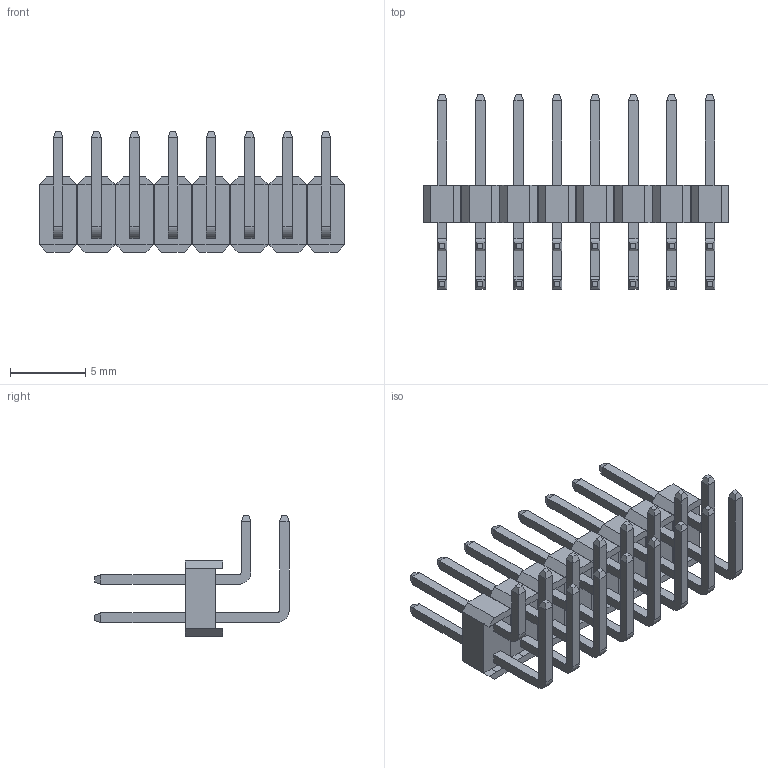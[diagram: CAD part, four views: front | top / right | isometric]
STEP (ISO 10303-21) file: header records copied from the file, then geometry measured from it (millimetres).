
FILE_DESCRIPTION(/* description */ (''),/* implementation_level */ '2;1');
FILE_NAME(/* name */ 'E:\工作文件\排针排母\PZ排针\2.54\双排\W-弯针\塑高2.5\PZ254-2-N-W-2.5-XX (2.54 双排 弯针 排针-HCTL)\PZ254-2-8-W-2.5-XX (2.54 双排 弯针 排针-HCTL).stp',/* time_stamp */ '2023-12-20T10:18:36+08:00',/* author */ ('admin'),/* organization */ (''),/* preprocessor_version */ 'ST-DEVELOPER v18.1',/* originating_system */ 'Autodesk Inventor 2021',/* authorisation */ '');
FILE_SCHEMA (('AUTOMOTIVE_DESIGN { 1 0 10303 214 3 1 1 }'));
Length unit declared in the file: millimetre
Products named in the file (1): PZ254-2-1-W-2.5-XX (2.54 双排 弯针 
排针-HCTL)
Bounding box: 20.28 x 12.9 x 8 mm (x, y, z)
Volume: 295.8 mm3; surface area: 1154.4 mm2
Topology: 15 solids, 15 shells, 538 faces, 1268 edges, 792 vertices
Faces by surface type: plane 506, cylinder 32
Entity records: 14983 total; most frequent: CARTESIAN_POINT 2599, ORIENTED_EDGE 2536, DIRECTION 2410, EDGE_CURVE 1268, LINE 1204, VECTOR 1204, VERTEX_POINT 792, AXIS2_PLACEMENT_3D 603
